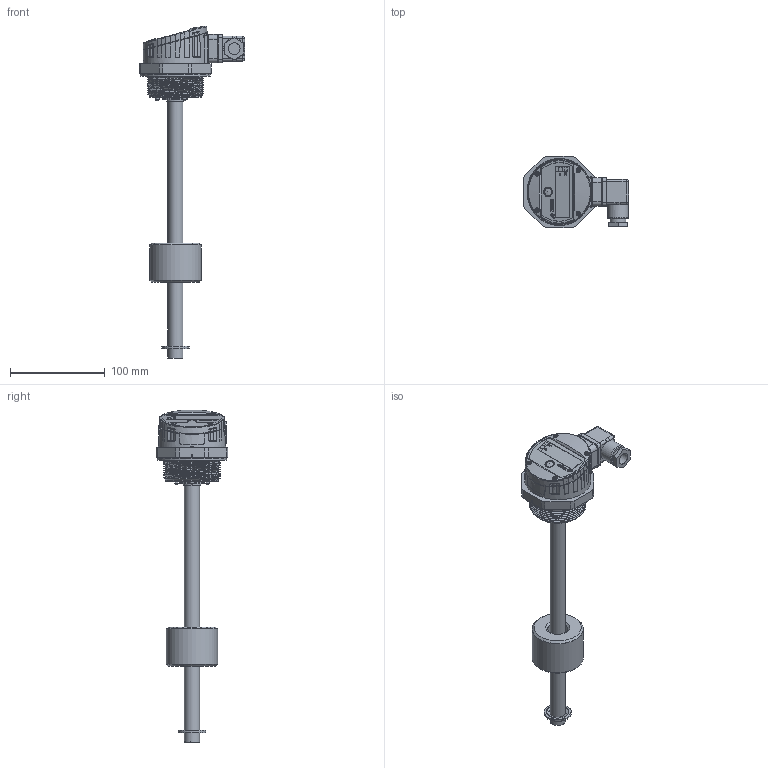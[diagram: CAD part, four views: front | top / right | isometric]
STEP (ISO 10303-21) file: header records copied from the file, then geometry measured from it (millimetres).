
FILE_DESCRIPTION(/* description */ (''),/* implementation_level */ '2;1');
FILE_NAME(/* name */ '2.22_A_1-LVL-N...stp',/* time_stamp */ '2019-12-13T08:58:23+01:00',/* author */ (''),/* organization */ (''),/* preprocessor_version */ 'ST-DEVELOPER v16',/* originating_system */ 'SIEMENS PLM Software NX 11.0',/* authorisation */ '');
FILE_SCHEMA (('AUTOMOTIVE_DESIGN { 1 0 10303 214 3 1 1 1 }'));
Products named in the file (1): pr1m01944044fun4
Bounding box: 111.1 x 76 x 350.98 mm (x, y, z)
Volume: 320619.2 mm3; surface area: 124985.7 mm2
Topology: 31 solids, 32 shells, 2472 faces, 6519 edges, 4236 vertices
Faces by surface type: plane 1009, bspline 461, cylinder 399, extrusion 321, cone 183, torus 63, sphere 36
Full cylindrical faces by diameter (mm): 1.158 x1, 2 x4, 2.05 x32, 2.1 x6, 2.26 x4, 2.5 x2, 2.55 x4, 2.6 x2, 2.7 x10, 3.2 x4, 3.45 x2, 3.65 x4, 4.5 x4, 5.44 x1, 5.8 x4, 6 x2, 6.5 x1, 7 x1, 8.64 x1, 9 x1, 10 x1, 12.5 x1, 15.9 x1, 16 x3, 16.6 x1, 18 x1, 20.6 x1, 22 x1, 23.9 x1, 26.3 x2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
Entity records: 119297 total; most frequent: CARTESIAN_POINT 62109, ORIENTED_EDGE 12224, DIRECTION 8934, EDGE_CURVE 6112, VERTEX_POINT 4065, AXIS2_PLACEMENT_3D 3257, EDGE_LOOP 2815, B_SPLINE_CURVE_WITH_KNOTS 2724
